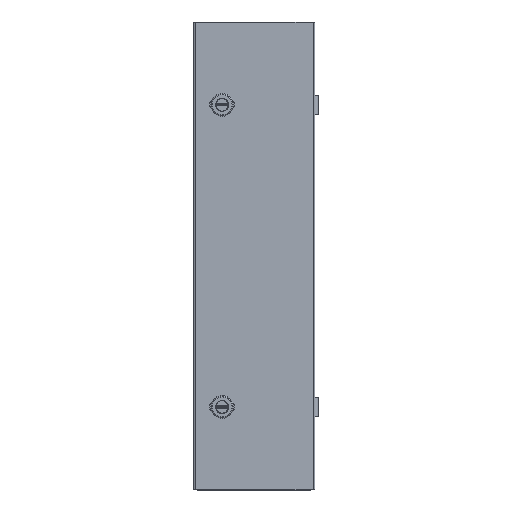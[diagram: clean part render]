
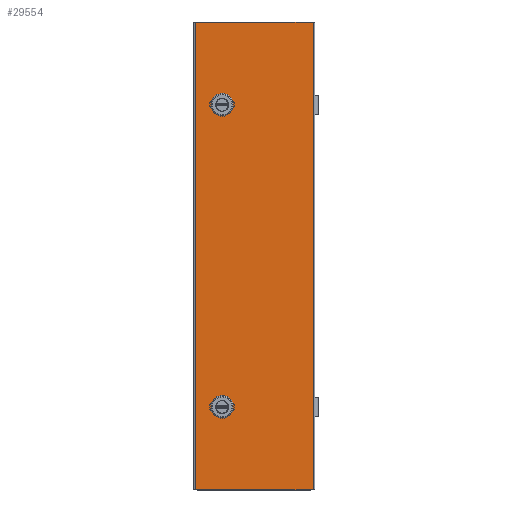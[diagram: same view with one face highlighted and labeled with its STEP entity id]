
A CAD part, top view. The second image highlights one B-rep face of the part: STEP entity #29554.
In plain terms, the highlighted planar face has unit normal (0, 0, 1).
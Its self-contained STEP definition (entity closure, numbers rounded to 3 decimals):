
#1618=FACE_BOUND('',#4287,.T.);
#1619=FACE_BOUND('',#4288,.T.);
#2408=FACE_OUTER_BOUND('',#4286,.T.);
#4286=EDGE_LOOP('',(#20784,#20785,#20786,#20787));
#4287=EDGE_LOOP('',(#20788,#20789,#20790,#20791,#20792,#20793,#20794,#20795,
#20796,#20797));
#4288=EDGE_LOOP('',(#20798,#20799,#20800,#20801,#20802,#20803,#20804,#20805,
#20806,#20807));
#6293=LINE('',#42963,#8815);
#6298=LINE('',#42977,#8820);
#6303=LINE('',#42986,#8825);
#6319=LINE('',#43037,#8841);
#6322=LINE('',#43044,#8844);
#6324=LINE('',#43050,#8846);
#6326=LINE('',#43059,#8848);
#6330=LINE('',#43068,#8852);
#6333=LINE('',#43073,#8855);
#6336=LINE('',#43082,#8858);
#6339=LINE('',#43089,#8861);
#6341=LINE('',#43095,#8863);
#6390=LINE('',#43213,#8912);
#6395=LINE('',#43231,#8917);
#6400=LINE('',#43245,#8922);
#6401=LINE('',#43247,#8923);
#8815=VECTOR('',#35033,0.394);
#8820=VECTOR('',#35046,0.394);
#8825=VECTOR('',#35053,0.394);
#8841=VECTOR('',#35093,0.394);
#8844=VECTOR('',#35102,0.394);
#8846=VECTOR('',#35110,0.394);
#8848=VECTOR('',#35120,0.394);
#8852=VECTOR('',#35130,0.394);
#8855=VECTOR('',#35135,0.394);
#8858=VECTOR('',#35144,0.394);
#8861=VECTOR('',#35153,0.394);
#8863=VECTOR('',#35161,0.394);
#8912=VECTOR('',#35266,0.394);
#8917=VECTOR('',#35291,0.394);
#8922=VECTOR('',#35314,0.394);
#8923=VECTOR('',#35317,0.394);
#11122=CIRCLE('',#31649,0.492);
#11132=CIRCLE('',#31663,0.443);
#11133=CIRCLE('',#31666,0.443);
#11134=CIRCLE('',#31669,0.443);
#11136=CIRCLE('',#31676,0.492);
#11137=CIRCLE('',#31680,0.443);
#11138=CIRCLE('',#31683,0.443);
#11139=CIRCLE('',#31686,0.443);
#12480=VERTEX_POINT('',#42961);
#12481=VERTEX_POINT('',#42962);
#12484=VERTEX_POINT('',#42970);
#12486=VERTEX_POINT('',#42976);
#12489=VERTEX_POINT('',#42984);
#12510=VERTEX_POINT('',#43030);
#12511=VERTEX_POINT('',#43032);
#12512=VERTEX_POINT('',#43036);
#12513=VERTEX_POINT('',#43042);
#12514=VERTEX_POINT('',#43046);
#12516=VERTEX_POINT('',#43057);
#12517=VERTEX_POINT('',#43058);
#12518=VERTEX_POINT('',#43063);
#12519=VERTEX_POINT('',#43067);
#12520=VERTEX_POINT('',#43071);
#12521=VERTEX_POINT('',#43075);
#12522=VERTEX_POINT('',#43076);
#12523=VERTEX_POINT('',#43081);
#12524=VERTEX_POINT('',#43085);
#12525=VERTEX_POINT('',#43091);
#12565=VERTEX_POINT('',#43210);
#12566=VERTEX_POINT('',#43212);
#12568=VERTEX_POINT('',#43228);
#12569=VERTEX_POINT('',#43230);
#15466=EDGE_CURVE('',#12480,#12481,#6293,.T.);
#15470=EDGE_CURVE('',#12484,#12480,#11122,.T.);
#15473=EDGE_CURVE('',#12486,#12484,#6298,.T.);
#15478=EDGE_CURVE('',#12481,#12489,#6303,.T.);
#15501=EDGE_CURVE('',#12511,#12510,#11132,.T.);
#15503=EDGE_CURVE('',#12512,#12511,#6319,.T.);
#15505=EDGE_CURVE('',#12489,#12512,#11133,.T.);
#15507=EDGE_CURVE('',#12510,#12513,#6322,.T.);
#15509=EDGE_CURVE('',#12513,#12514,#11134,.T.);
#15510=EDGE_CURVE('',#12514,#12486,#6324,.T.);
#15513=EDGE_CURVE('',#12516,#12517,#6326,.T.);
#15516=EDGE_CURVE('',#12518,#12516,#11136,.T.);
#15518=EDGE_CURVE('',#12519,#12518,#6330,.T.);
#15521=EDGE_CURVE('',#12517,#12520,#6333,.T.);
#15522=EDGE_CURVE('',#12521,#12522,#11137,.T.);
#15525=EDGE_CURVE('',#12522,#12523,#6336,.T.);
#15527=EDGE_CURVE('',#12523,#12524,#11138,.T.);
#15529=EDGE_CURVE('',#12524,#12519,#6339,.T.);
#15530=EDGE_CURVE('',#12520,#12525,#11139,.T.);
#15532=EDGE_CURVE('',#12525,#12521,#6341,.T.);
#15590=EDGE_CURVE('',#12566,#12565,#6390,.T.);
#15599=EDGE_CURVE('',#12569,#12568,#6395,.T.);
#15607=EDGE_CURVE('',#12566,#12568,#6400,.T.);
#15608=EDGE_CURVE('',#12569,#12565,#6401,.T.);
#20784=ORIENTED_EDGE('',*,*,#15590,.T.);
#20785=ORIENTED_EDGE('',*,*,#15608,.F.);
#20786=ORIENTED_EDGE('',*,*,#15599,.T.);
#20787=ORIENTED_EDGE('',*,*,#15607,.F.);
#20788=ORIENTED_EDGE('',*,*,#15466,.T.);
#20789=ORIENTED_EDGE('',*,*,#15478,.T.);
#20790=ORIENTED_EDGE('',*,*,#15505,.T.);
#20791=ORIENTED_EDGE('',*,*,#15503,.T.);
#20792=ORIENTED_EDGE('',*,*,#15501,.T.);
#20793=ORIENTED_EDGE('',*,*,#15507,.T.);
#20794=ORIENTED_EDGE('',*,*,#15509,.T.);
#20795=ORIENTED_EDGE('',*,*,#15510,.T.);
#20796=ORIENTED_EDGE('',*,*,#15473,.T.);
#20797=ORIENTED_EDGE('',*,*,#15470,.T.);
#20798=ORIENTED_EDGE('',*,*,#15513,.T.);
#20799=ORIENTED_EDGE('',*,*,#15521,.T.);
#20800=ORIENTED_EDGE('',*,*,#15530,.T.);
#20801=ORIENTED_EDGE('',*,*,#15532,.T.);
#20802=ORIENTED_EDGE('',*,*,#15522,.T.);
#20803=ORIENTED_EDGE('',*,*,#15525,.T.);
#20804=ORIENTED_EDGE('',*,*,#15527,.T.);
#20805=ORIENTED_EDGE('',*,*,#15529,.T.);
#20806=ORIENTED_EDGE('',*,*,#15518,.T.);
#20807=ORIENTED_EDGE('',*,*,#15516,.T.);
#28758=PLANE('',#31735);
#29554=ADVANCED_FACE('',(#2408,#1618,#1619),#28758,.T.);
#31649=AXIS2_PLACEMENT_3D('',#42971,#35039,#35040);
#31663=AXIS2_PLACEMENT_3D('',#43033,#35088,#35089);
#31666=AXIS2_PLACEMENT_3D('',#43040,#35097,#35098);
#31669=AXIS2_PLACEMENT_3D('',#43048,#35106,#35107);
#31676=AXIS2_PLACEMENT_3D('',#43064,#35125,#35126);
#31680=AXIS2_PLACEMENT_3D('',#43077,#35138,#35139);
#31683=AXIS2_PLACEMENT_3D('',#43086,#35148,#35149);
#31686=AXIS2_PLACEMENT_3D('',#43092,#35156,#35157);
#31735=AXIS2_PLACEMENT_3D('',#43246,#35315,#35316);
#35033=DIRECTION('',(0.,1.,0.));
#35039=DIRECTION('center_axis',(0.,0.,-1.));
#35040=DIRECTION('ref_axis',(-1.,0.,0.));
#35046=DIRECTION('',(1.,0.,0.));
#35053=DIRECTION('',(-1.,0.,0.));
#35088=DIRECTION('center_axis',(0.,0.,-1.));
#35089=DIRECTION('ref_axis',(-1.,0.,0.));
#35093=DIRECTION('',(0.,1.,0.));
#35097=DIRECTION('center_axis',(0.,0.,-1.));
#35098=DIRECTION('ref_axis',(-1.,0.,0.));
#35102=DIRECTION('',(1.,0.,0.));
#35106=DIRECTION('center_axis',(0.,0.,-1.));
#35107=DIRECTION('ref_axis',(-1.,0.,0.));
#35110=DIRECTION('',(0.,-1.,0.));
#35120=DIRECTION('',(0.,1.,0.));
#35125=DIRECTION('center_axis',(0.,0.,-1.));
#35126=DIRECTION('ref_axis',(-1.,0.,0.));
#35130=DIRECTION('',(1.,0.,0.));
#35135=DIRECTION('',(-1.,0.,0.));
#35138=DIRECTION('center_axis',(0.,0.,-1.));
#35139=DIRECTION('ref_axis',(-1.,0.,0.));
#35144=DIRECTION('',(1.,0.,0.));
#35148=DIRECTION('center_axis',(0.,0.,-1.));
#35149=DIRECTION('ref_axis',(-1.,0.,0.));
#35153=DIRECTION('',(0.,-1.,0.));
#35156=DIRECTION('center_axis',(0.,0.,-1.));
#35157=DIRECTION('ref_axis',(-1.,0.,0.));
#35161=DIRECTION('',(0.,1.,0.));
#35266=DIRECTION('',(0.,-1.,0.));
#35291=DIRECTION('',(0.,1.,0.));
#35314=DIRECTION('',(1.,0.,0.));
#35315=DIRECTION('center_axis',(0.,0.,1.));
#35316=DIRECTION('ref_axis',(1.,0.,0.));
#35317=DIRECTION('',(-1.,0.,0.));
#42961=CARTESIAN_POINT('',(-1.729,-8.236,0.055));
#42962=CARTESIAN_POINT('',(-1.729,-8.146,0.055));
#42963=CARTESIAN_POINT('',(-1.729,-4.118,0.055));
#42970=CARTESIAN_POINT('',(-1.164,-7.671,0.055));
#42971=CARTESIAN_POINT('Origin',(-1.65,-7.75,0.055));
#42976=CARTESIAN_POINT('',(-1.254,-7.671,0.055));
#42977=CARTESIAN_POINT('',(-0.864,-7.671,0.055));
#42984=CARTESIAN_POINT('',(-1.849,-8.146,0.055));
#42986=CARTESIAN_POINT('',(-0.725,-8.146,0.055));
#43030=CARTESIAN_POINT('',(-1.849,-7.354,0.055));
#43032=CARTESIAN_POINT('',(-2.046,-7.551,0.055));
#43033=CARTESIAN_POINT('Origin',(-1.65,-7.75,0.055));
#43036=CARTESIAN_POINT('',(-2.046,-7.949,0.055));
#43037=CARTESIAN_POINT('',(-2.046,-3.975,0.055));
#43040=CARTESIAN_POINT('Origin',(-1.65,-7.75,0.055));
#43042=CARTESIAN_POINT('',(-1.451,-7.354,0.055));
#43044=CARTESIAN_POINT('',(-0.925,-7.354,0.055));
#43046=CARTESIAN_POINT('',(-1.254,-7.551,0.055));
#43048=CARTESIAN_POINT('Origin',(-1.65,-7.75,0.055));
#43050=CARTESIAN_POINT('',(-1.254,-3.775,0.055));
#43057=CARTESIAN_POINT('',(-1.729,7.264,0.055));
#43058=CARTESIAN_POINT('',(-1.729,7.354,0.055));
#43059=CARTESIAN_POINT('',(-1.729,3.632,0.055));
#43063=CARTESIAN_POINT('',(-1.164,7.829,0.055));
#43064=CARTESIAN_POINT('Origin',(-1.65,7.75,0.055));
#43067=CARTESIAN_POINT('',(-1.254,7.829,0.055));
#43068=CARTESIAN_POINT('',(-0.864,7.829,0.055));
#43071=CARTESIAN_POINT('',(-1.849,7.354,0.055));
#43073=CARTESIAN_POINT('',(-0.725,7.354,0.055));
#43075=CARTESIAN_POINT('',(-2.046,7.949,0.055));
#43076=CARTESIAN_POINT('',(-1.849,8.146,0.055));
#43077=CARTESIAN_POINT('Origin',(-1.65,7.75,0.055));
#43081=CARTESIAN_POINT('',(-1.451,8.146,0.055));
#43082=CARTESIAN_POINT('',(-0.925,8.146,0.055));
#43085=CARTESIAN_POINT('',(-1.254,7.949,0.055));
#43086=CARTESIAN_POINT('Origin',(-1.65,7.75,0.055));
#43089=CARTESIAN_POINT('',(-1.254,3.975,0.055));
#43091=CARTESIAN_POINT('',(-2.046,7.551,0.055));
#43092=CARTESIAN_POINT('Origin',(-1.65,7.75,0.055));
#43095=CARTESIAN_POINT('',(-2.046,3.775,0.055));
#43210=CARTESIAN_POINT('',(-3.024,-12.,0.055));
#43212=CARTESIAN_POINT('',(-3.024,12.,0.055));
#43213=CARTESIAN_POINT('',(-3.024,6.,0.055));
#43228=CARTESIAN_POINT('',(3.024,12.,0.055));
#43230=CARTESIAN_POINT('',(3.024,-12.,0.055));
#43231=CARTESIAN_POINT('',(3.024,-6.,0.055));
#43245=CARTESIAN_POINT('',(3.11,12.,0.055));
#43246=CARTESIAN_POINT('Origin',(0.,0.,0.055));
#43247=CARTESIAN_POINT('',(-3.11,-12.,0.055));
